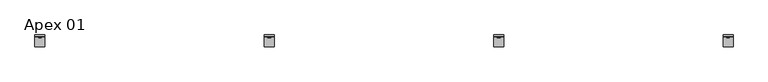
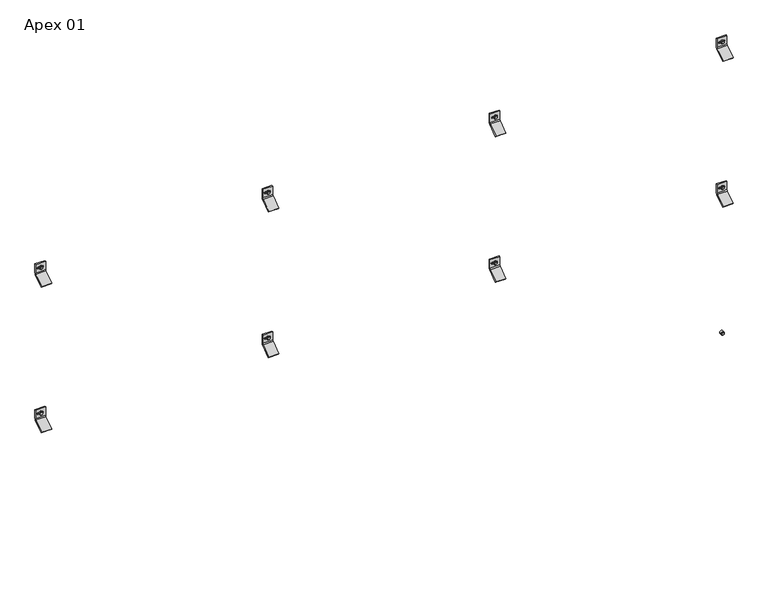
"""IFC4 building model written with IfcOpenShell, lengths in millimetres: plate geometry, Single-Panel-Perforated-Amico_Architectural : Apex 01."""

from ifc_helpers import new_model, si_unit, point, frame, frame_2d, origin, place, context, project, spatial, polyline, circle_curve, trimmed, segment, composite_curve, outline, extrude, source, transform, mapped, element, save
from ifc_brep_helpers import plane_surface, cylinder_surface, revolved_surface, advanced_brep


def apex_01_623eff0d(model_context):
    return source(origin(), model_context, "Body", "SolidModel", [
        extrude(outline(polyline([(1939.6304341, 1299.9070034), (1935.2847216, 1302.4160017), (1935.2847216, 1307.4339983), (1939.6304341, 1309.9429966), (1943.9761466, 1307.4339983), (1943.9761466, 1302.4160017), (1939.6304341, 1299.9070034)])), frame((0.0, -58.7607779, 0.0), z_axis=(0.0, 1.0, 0.0), x_axis=(0.0, 0.0, 1.0)), (0.0, 0.0, 1.0), 11.1357779),
        extrude(outline(composite_curve([segment(trimmed(circle_curve(frame_2d((1939.7237411, 1304.925)), 6.35), [point((1939.7237411, 1311.275))], [point((1939.7237411, 1298.575))], False, "CARTESIAN"), True, "CONTINUOUS"), segment(trimmed(circle_curve(frame_2d((1939.7237411, 1304.925)), 6.35), [point((1939.7237411, 1298.575))], [point((1939.7237411, 1311.275))], False, "CARTESIAN"), True, "CONTINUOUS")], self_intersect=False)), frame((0.0, -57.0817743, 0.0), z_axis=(0.0, 1.0, 0.0), x_axis=(0.0, 0.0, 1.0)), (0.0, 0.0, 1.0), 9.4567743),
        advanced_brep(
        [(1285.875, -47.625, 1922.481122), (1285.875, -51.2819443, 1914.8190896), (1285.875, -89.5163624, 1888.0470618), (1285.875, -92.9330442, 1891.4637436), (1285.875, -54.3526876, 1918.4780001), (1285.875, -52.4002, 1922.4811929), (1285.875, -52.4002, 1956.6738072), (1285.875, -47.625, 1956.6738072), (1323.975, -47.625, 1922.481122), (1323.975, -47.625, 1956.6738072), (1323.975, -52.4002, 1956.6738072), (1323.975, -52.4002, 1922.4811929), (1323.975, -54.3526876, 1918.4780001), (1323.975, -92.9330442, 1891.4637436), (1323.975, -89.5163624, 1888.0470618), (1323.975, -51.2819443, 1914.8190896), (1311.6661889, -52.4002, 1942.628591), (1311.6661889, -52.4002, 1936.278591), (1295.4383287, -52.4002, 1936.278591), (1295.4383287, -52.4002, 1942.628591), (1311.6661889, -47.625, 1936.278591), (1311.6661889, -47.625, 1942.628591), (1295.4383287, -47.625, 1942.628591), (1295.4383287, -47.625, 1936.278591)],
        [
            (0, 1, circle_curve(frame((1285.875, -57.4802202, 1922.481122), z_axis=(-1.0, 0.0, 0.0), x_axis=(0.0, -1.0, 0.0)), 9.8552202)),
            (1, 2),
            (2, 3),
            (3, 4),
            (4, 5, circle_curve(frame((1285.875, -57.4803246, 1922.4811929), z_axis=(1.0, 0.0, 0.0), x_axis=(0.0, -1.0, 0.0)), 5.0801246)),
            (5, 6),
            (6, 7),
            (7, 0),
            (8, 9),
            (9, 10),
            (10, 11),
            (11, 12, circle_curve(frame((1323.975, -57.4803246, 1922.4811929), z_axis=(-1.0, 0.0, 0.0), x_axis=(0.0, -1.0, 0.0)), 5.0801246)),
            (12, 13),
            (13, 14),
            (14, 15),
            (15, 8, circle_curve(frame((1323.975, -57.4802202, 1922.481122), z_axis=(1.0, 0.0, 0.0), x_axis=(0.0, -1.0, 0.0)), 9.8552202)),
            (4, 12),
            (11, 5),
            (10, 6),
            (16, 17, circle_curve(frame((1311.6661889, -52.4002, 1939.453591), z_axis=(0.0, 1.0, 0.0), x_axis=(0.0, 0.0, -1.0)), 3.175)),
            (17, 18),
            (18, 19, circle_curve(frame((1295.4383287, -52.4002, 1939.453591), z_axis=(0.0, 1.0, 0.0), x_axis=(0.0, 0.0, -1.0)), 3.175)),
            (19, 16),
            (9, 7),
            (8, 0),
            (20, 21, circle_curve(frame((1311.6661889, -47.625, 1939.453591), z_axis=(0.0, -1.0, 0.0), x_axis=(0.0, 0.0, -1.0)), 3.175)),
            (21, 22),
            (22, 23, circle_curve(frame((1295.4383287, -47.625, 1939.453591), z_axis=(0.0, -1.0, 0.0), x_axis=(0.0, 0.0, -1.0)), 3.175)),
            (23, 20),
            (15, 1),
            (20, 17),
            (16, 21),
            (19, 22),
            (18, 23),
            (14, 2),
            (13, 3),
        ],
        [
            plane_surface(frame((1285.875, -67.3354404, 1922.481122), z_axis=(-1.0, 0.0, 0.0), x_axis=(0.0, 0.0, 1.0))),
            plane_surface(frame((1323.975, -67.3354404, 1922.481122), z_axis=(1.0, 0.0, 0.0), x_axis=(0.0, 0.0, -1.0))),
            revolved_surface(polyline([(1323.975, -62.5604492, 1922.4811929), (1285.875, -62.5604492, 1922.4811929)]), (1323.975, -57.4803246, 1922.4811929), (1.0, 0.0, 0.0)),
            plane_surface(frame((1285.875, -52.4002, 1922.4811929), z_axis=(0.0, -1.0, 0.0), x_axis=(1.0, 0.0, 0.0))),
            plane_surface(frame((1285.875, -52.4002, 1956.6738072), z_axis=(0.0, 0.0, 1.0), x_axis=(1.0, 0.0, 0.0))),
            plane_surface(frame((1285.875, -47.625, 1956.6738072), z_axis=(0.0, 1.0, 6.99569853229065e-12), x_axis=(1.0, 0.0, 0.0))),
            cylinder_surface(frame((1323.975, -57.4802202, 1922.481122), z_axis=(-1.0, 0.0, 0.0), x_axis=(0.0, -1.0, 0.0)), 9.8552202),
            revolved_surface(polyline([(1311.6661889, -52.4002, 1936.278591), (1311.6661889, -47.625, 1936.278591)]), (1311.6661889, -25.6669948, 1939.453591), (0.0, -1.0, 0.0)),
            plane_surface(frame((1311.6661889, -86.677982, 1942.628591), z_axis=(0.0, 0.0, -1.0), x_axis=(0.0, 1.0, 0.0))),
            revolved_surface(polyline([(1295.4383287, -52.4002, 1936.278591), (1295.4383287, -47.625, 1936.278591)]), (1295.4383287, -25.6669948, 1939.453591), (0.0, -1.0, 0.0)),
            plane_surface(frame((1295.4383287, -86.677982, 1936.278591), z_axis=(-2.7237720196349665e-11, 0.0, 1.0), x_axis=(0.0, 1.0, 0.0))),
            plane_surface(frame((1285.875, -51.2819443, 1914.8190896), z_axis=(0.0, 0.5735764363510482, -0.8191520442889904), x_axis=(1.0, 0.0, 0.0))),
            plane_surface(frame((1285.875, -89.5163624, 1888.0470618), z_axis=(0.0, -0.7071067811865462, -0.7071067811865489), x_axis=(1.0, 0.0, 0.0))),
            plane_surface(frame((1285.875, -92.9330442, 1891.4637436), z_axis=(0.0, -0.5735764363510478, 0.8191520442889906), x_axis=(1.0, 0.0, 0.0))),
        ],
        [
            (0, [[1, 2, 3, 4, 5, 6, 7, 8]]),
            (1, [[9, 10, 11, 12, 13, 14, 15, 16]]),
            (2, [[-5, 17, -12, 18]]),
            (3, [[-6, -18, -11, 19], [20, 21, 22, 23]]),
            (4, [[-7, -19, -10, 24]]),
            (5, [[-8, -24, -9, 25], [26, 27, 28, 29]]),
            (6, [[-1, -25, -16, 30]]),
            (7, [[31, -20, 32, -26]]),
            (8, [[-32, -23, 33, -27]]),
            (9, [[-33, -22, 34, -28]]),
            (10, [[-31, -29, -34, -21]]),
            (11, [[-2, -30, -15, 35]]),
            (12, [[-3, -35, -14, 36]]),
            (13, [[-4, -36, -13, -17]]),
        ],
    ),
        extrude(outline(polyline([(1939.6304341, 429.9570034), (1935.2847216, 432.4660017), (1935.2847216, 437.4839983), (1939.6304341, 439.9929966), (1943.9761466, 437.4839983), (1943.9761466, 432.4660017), (1939.6304341, 429.9570034)])), frame((0.0, -58.7607779, 0.0), z_axis=(0.0, 1.0, 0.0), x_axis=(0.0, 0.0, 1.0)), (0.0, 0.0, 1.0), 11.1357779),
        extrude(outline(composite_curve([segment(trimmed(circle_curve(frame_2d((1939.7237411, 434.975)), 6.35), [point((1939.7237411, 441.325))], [point((1939.7237411, 428.625))], False, "CARTESIAN"), True, "CONTINUOUS"), segment(trimmed(circle_curve(frame_2d((1939.7237411, 434.975)), 6.35), [point((1939.7237411, 428.625))], [point((1939.7237411, 441.325))], False, "CARTESIAN"), True, "CONTINUOUS")], self_intersect=False)), frame((0.0, -57.0817743, 0.0), z_axis=(0.0, 1.0, 0.0), x_axis=(0.0, 0.0, 1.0)), (0.0, 0.0, 1.0), 9.4567743),
        advanced_brep(
        [(415.925, -47.625, 1922.481122), (415.925, -51.2819443, 1914.8190896), (415.925, -89.5163624, 1888.0470618), (415.925, -92.9330442, 1891.4637436), (415.925, -54.3526876, 1918.4780001), (415.925, -52.4002, 1922.4811929), (415.925, -52.4002, 1956.6738072), (415.925, -47.625, 1956.6738072), (454.025, -47.625, 1922.481122), (454.025, -47.625, 1956.6738072), (454.025, -52.4002, 1956.6738072), (454.025, -52.4002, 1922.4811929), (454.025, -54.3526876, 1918.4780001), (454.025, -92.9330442, 1891.4637436), (454.025, -89.5163624, 1888.0470618), (454.025, -51.2819443, 1914.8190896), (441.7161889, -52.4002, 1942.628591), (441.7161889, -52.4002, 1936.278591), (425.4883287, -52.4002, 1936.278591), (425.4883287, -52.4002, 1942.628591), (441.7161889, -47.625, 1936.278591), (441.7161889, -47.625, 1942.628591), (425.4883287, -47.625, 1942.628591), (425.4883287, -47.625, 1936.278591)],
        [
            (0, 1, circle_curve(frame((415.925, -57.4802202, 1922.481122), z_axis=(-1.0, 0.0, 0.0), x_axis=(0.0, -1.0, 0.0)), 9.8552202)),
            (1, 2),
            (2, 3),
            (3, 4),
            (4, 5, circle_curve(frame((415.925, -57.4803246, 1922.4811929), z_axis=(1.0, 0.0, 0.0), x_axis=(0.0, -1.0, 0.0)), 5.0801246)),
            (5, 6),
            (6, 7),
            (7, 0),
            (8, 9),
            (9, 10),
            (10, 11),
            (11, 12, circle_curve(frame((454.025, -57.4803246, 1922.4811929), z_axis=(-1.0, 0.0, 0.0), x_axis=(0.0, -1.0, 0.0)), 5.0801246)),
            (12, 13),
            (13, 14),
            (14, 15),
            (15, 8, circle_curve(frame((454.025, -57.4802202, 1922.481122), z_axis=(1.0, 0.0, 0.0), x_axis=(0.0, -1.0, 0.0)), 9.8552202)),
            (4, 12),
            (11, 5),
            (10, 6),
            (16, 17, circle_curve(frame((441.7161889, -52.4002, 1939.453591), z_axis=(0.0, 1.0, 0.0), x_axis=(0.0, 0.0, -1.0)), 3.175)),
            (17, 18),
            (18, 19, circle_curve(frame((425.4883287, -52.4002, 1939.453591), z_axis=(0.0, 1.0, 0.0), x_axis=(0.0, 0.0, -1.0)), 3.175)),
            (19, 16),
            (9, 7),
            (8, 0),
            (20, 21, circle_curve(frame((441.7161889, -47.625, 1939.453591), z_axis=(0.0, -1.0, 0.0), x_axis=(0.0, 0.0, -1.0)), 3.175)),
            (21, 22),
            (22, 23, circle_curve(frame((425.4883287, -47.625, 1939.453591), z_axis=(0.0, -1.0, 0.0), x_axis=(0.0, 0.0, -1.0)), 3.175)),
            (23, 20),
            (15, 1),
            (20, 17),
            (16, 21),
            (19, 22),
            (18, 23),
            (14, 2),
            (13, 3),
        ],
        [
            plane_surface(frame((415.925, -67.3354404, 1922.481122), z_axis=(-1.0, 0.0, 0.0), x_axis=(0.0, 0.0, 1.0))),
            plane_surface(frame((454.025, -67.3354404, 1922.481122), z_axis=(1.0, 0.0, 0.0), x_axis=(0.0, 0.0, -1.0))),
            revolved_surface(polyline([(454.025, -62.5604492, 1922.4811929), (415.925, -62.5604492, 1922.4811929)]), (454.025, -57.4803246, 1922.4811929), (1.0, 0.0, 0.0)),
            plane_surface(frame((415.925, -52.4002, 1922.4811929), z_axis=(0.0, -1.0, 0.0), x_axis=(1.0, 0.0, 0.0))),
            plane_surface(frame((415.925, -52.4002, 1956.6738072), z_axis=(0.0, 0.0, 1.0), x_axis=(1.0, 0.0, 0.0))),
            plane_surface(frame((415.925, -47.625, 1956.6738072), z_axis=(0.0, 1.0, 6.99569853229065e-12), x_axis=(1.0, 0.0, 0.0))),
            cylinder_surface(frame((454.025, -57.4802202, 1922.481122), z_axis=(-1.0, 0.0, 0.0), x_axis=(0.0, -1.0, 0.0)), 9.8552202),
            revolved_surface(polyline([(441.7161889, -52.4002, 1936.278591), (441.7161889, -47.625, 1936.278591)]), (441.7161889, -25.6669948, 1939.453591), (0.0, -1.0, 0.0)),
            plane_surface(frame((441.7161889, -86.677982, 1942.628591), z_axis=(0.0, 0.0, -1.0), x_axis=(0.0, 1.0, 0.0))),
            revolved_surface(polyline([(425.4883287, -52.4002, 1936.278591), (425.4883287, -47.625, 1936.278591)]), (425.4883287, -25.6669948, 1939.453591), (0.0, -1.0, 0.0)),
            plane_surface(frame((425.4883287, -86.677982, 1936.278591), z_axis=(-2.7237720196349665e-11, 0.0, 1.0), x_axis=(0.0, 1.0, 0.0))),
            plane_surface(frame((415.925, -51.2819443, 1914.8190896), z_axis=(0.0, 0.5735764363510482, -0.8191520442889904), x_axis=(1.0, 0.0, 0.0))),
            plane_surface(frame((415.925, -89.5163624, 1888.0470618), z_axis=(0.0, -0.7071067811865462, -0.7071067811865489), x_axis=(1.0, 0.0, 0.0))),
            plane_surface(frame((415.925, -92.9330442, 1891.4637436), z_axis=(0.0, -0.5735764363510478, 0.8191520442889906), x_axis=(1.0, 0.0, 0.0))),
        ],
        [
            (0, [[1, 2, 3, 4, 5, 6, 7, 8]]),
            (1, [[9, 10, 11, 12, 13, 14, 15, 16]]),
            (2, [[-5, 17, -12, 18]]),
            (3, [[-6, -18, -11, 19], [20, 21, 22, 23]]),
            (4, [[-7, -19, -10, 24]]),
            (5, [[-8, -24, -9, 25], [26, 27, 28, 29]]),
            (6, [[-1, -25, -16, 30]]),
            (7, [[31, -20, 32, -26]]),
            (8, [[-32, -23, 33, -27]]),
            (9, [[-33, -22, 34, -28]]),
            (10, [[-31, -29, -34, -21]]),
            (11, [[-2, -30, -15, 35]]),
            (12, [[-3, -35, -14, 36]]),
            (13, [[-4, -36, -13, -17]]),
        ],
    ),
        extrude(outline(polyline([(1939.6304341, -439.9929966), (1935.2847216, -437.4839983), (1935.2847216, -432.4660017), (1939.6304341, -429.9570034), (1943.9761466, -432.4660017), (1943.9761466, -437.4839983), (1939.6304341, -439.9929966)])), frame((0.0, -58.7607779, 0.0), z_axis=(0.0, 1.0, 0.0), x_axis=(0.0, 0.0, 1.0)), (0.0, 0.0, 1.0), 11.1357779),
        extrude(outline(composite_curve([segment(trimmed(circle_curve(frame_2d((1939.7237411, -434.975)), 6.35), [point((1939.7237411, -428.625))], [point((1939.7237411, -441.325))], False, "CARTESIAN"), True, "CONTINUOUS"), segment(trimmed(circle_curve(frame_2d((1939.7237411, -434.975)), 6.35), [point((1939.7237411, -441.325))], [point((1939.7237411, -428.625))], False, "CARTESIAN"), True, "CONTINUOUS")], self_intersect=False)), frame((0.0, -57.0817743, 0.0), z_axis=(0.0, 1.0, 0.0), x_axis=(0.0, 0.0, 1.0)), (0.0, 0.0, 1.0), 9.4567743),
        advanced_brep(
        [(-454.025, -47.625, 1922.481122), (-454.025, -51.2819443, 1914.8190896), (-454.025, -89.5163624, 1888.0470618), (-454.025, -92.9330442, 1891.4637436), (-454.025, -54.3526876, 1918.4780001), (-454.025, -52.4002, 1922.4811929), (-454.025, -52.4002, 1956.6738072), (-454.025, -47.625, 1956.6738072), (-415.925, -47.625, 1922.481122), (-415.925, -47.625, 1956.6738072), (-415.925, -52.4002, 1956.6738072), (-415.925, -52.4002, 1922.4811929), (-415.925, -54.3526876, 1918.4780001), (-415.925, -92.9330442, 1891.4637436), (-415.925, -89.5163624, 1888.0470618), (-415.925, -51.2819443, 1914.8190896), (-428.2338111, -52.4002, 1942.628591), (-428.2338111, -52.4002, 1936.278591), (-444.4616713, -52.4002, 1936.278591), (-444.4616713, -52.4002, 1942.628591), (-428.2338111, -47.625, 1936.278591), (-428.2338111, -47.625, 1942.628591), (-444.4616713, -47.625, 1942.628591), (-444.4616713, -47.625, 1936.278591)],
        [
            (0, 1, circle_curve(frame((-454.025, -57.4802202, 1922.481122), z_axis=(-1.0, 0.0, 0.0), x_axis=(0.0, -1.0, 0.0)), 9.8552202)),
            (1, 2),
            (2, 3),
            (3, 4),
            (4, 5, circle_curve(frame((-454.025, -57.4803246, 1922.4811929), z_axis=(1.0, 0.0, 0.0), x_axis=(0.0, -1.0, 0.0)), 5.0801246)),
            (5, 6),
            (6, 7),
            (7, 0),
            (8, 9),
            (9, 10),
            (10, 11),
            (11, 12, circle_curve(frame((-415.925, -57.4803246, 1922.4811929), z_axis=(-1.0, 0.0, 0.0), x_axis=(0.0, -1.0, 0.0)), 5.0801246)),
            (12, 13),
            (13, 14),
            (14, 15),
            (15, 8, circle_curve(frame((-415.925, -57.4802202, 1922.481122), z_axis=(1.0, 0.0, 0.0), x_axis=(0.0, -1.0, 0.0)), 9.8552202)),
            (4, 12),
            (11, 5),
            (10, 6),
            (16, 17, circle_curve(frame((-428.2338111, -52.4002, 1939.453591), z_axis=(0.0, 1.0, 0.0), x_axis=(0.0, 0.0, -1.0)), 3.175)),
            (17, 18),
            (18, 19, circle_curve(frame((-444.4616713, -52.4002, 1939.453591), z_axis=(0.0, 1.0, 0.0), x_axis=(0.0, 0.0, -1.0)), 3.175)),
            (19, 16),
            (9, 7),
            (8, 0),
            (20, 21, circle_curve(frame((-428.2338111, -47.625, 1939.453591), z_axis=(0.0, -1.0, 0.0), x_axis=(0.0, 0.0, -1.0)), 3.175)),
            (21, 22),
            (22, 23, circle_curve(frame((-444.4616713, -47.625, 1939.453591), z_axis=(0.0, -1.0, 0.0), x_axis=(0.0, 0.0, -1.0)), 3.175)),
            (23, 20),
            (15, 1),
            (20, 17),
            (16, 21),
            (19, 22),
            (18, 23),
            (14, 2),
            (13, 3),
        ],
        [
            plane_surface(frame((-454.025, -67.3354404, 1922.481122), z_axis=(-1.0, 0.0, 0.0), x_axis=(0.0, 0.0, 1.0))),
            plane_surface(frame((-415.925, -67.3354404, 1922.481122), z_axis=(1.0, 0.0, 0.0), x_axis=(0.0, 0.0, -1.0))),
            revolved_surface(polyline([(-415.925, -62.5604492, 1922.4811929), (-454.025, -62.5604492, 1922.4811929)]), (-415.925, -57.4803246, 1922.4811929), (1.0, 0.0, 0.0)),
            plane_surface(frame((-454.025, -52.4002, 1922.4811929), z_axis=(0.0, -1.0, 0.0), x_axis=(1.0, 0.0, 0.0))),
            plane_surface(frame((-454.025, -52.4002, 1956.6738072), z_axis=(0.0, 0.0, 1.0), x_axis=(1.0, 0.0, 0.0))),
            plane_surface(frame((-454.025, -47.625, 1956.6738072), z_axis=(0.0, 1.0, 6.99569853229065e-12), x_axis=(1.0, 0.0, 0.0))),
            cylinder_surface(frame((-415.925, -57.4802202, 1922.481122), z_axis=(-1.0, 0.0, 0.0), x_axis=(0.0, -1.0, 0.0)), 9.8552202),
            revolved_surface(polyline([(-428.2338111, -52.4002, 1936.278591), (-428.2338111, -47.625, 1936.278591)]), (-428.2338111, -25.6669948, 1939.453591), (0.0, -1.0, 0.0)),
            plane_surface(frame((-428.2338111, -86.677982, 1942.628591), z_axis=(0.0, 0.0, -1.0), x_axis=(0.0, 1.0, 0.0))),
            revolved_surface(polyline([(-444.4616713, -52.4002, 1936.278591), (-444.4616713, -47.625, 1936.278591)]), (-444.4616713, -25.6669948, 1939.453591), (0.0, -1.0, 0.0)),
            plane_surface(frame((-444.4616713, -86.677982, 1936.278591), z_axis=(-2.7237720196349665e-11, 0.0, 1.0), x_axis=(0.0, 1.0, 0.0))),
            plane_surface(frame((-454.025, -51.2819443, 1914.8190896), z_axis=(0.0, 0.5735764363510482, -0.8191520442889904), x_axis=(1.0, 0.0, 0.0))),
            plane_surface(frame((-454.025, -89.5163624, 1888.0470618), z_axis=(0.0, -0.7071067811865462, -0.7071067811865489), x_axis=(1.0, 0.0, 0.0))),
            plane_surface(frame((-454.025, -92.9330442, 1891.4637436), z_axis=(0.0, -0.5735764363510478, 0.8191520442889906), x_axis=(1.0, 0.0, 0.0))),
        ],
        [
            (0, [[1, 2, 3, 4, 5, 6, 7, 8]]),
            (1, [[9, 10, 11, 12, 13, 14, 15, 16]]),
            (2, [[-5, 17, -12, 18]]),
            (3, [[-6, -18, -11, 19], [20, 21, 22, 23]]),
            (4, [[-7, -19, -10, 24]]),
            (5, [[-8, -24, -9, 25], [26, 27, 28, 29]]),
            (6, [[-1, -25, -16, 30]]),
            (7, [[31, -20, 32, -26]]),
            (8, [[-32, -23, 33, -27]]),
            (9, [[-33, -22, 34, -28]]),
            (10, [[-31, -29, -34, -21]]),
            (11, [[-2, -30, -15, 35]]),
            (12, [[-3, -35, -14, 36]]),
            (13, [[-4, -36, -13, -17]]),
        ],
    ),
        extrude(outline(polyline([(1939.6304341, -1309.9429966), (1935.2847216, -1307.4339983), (1935.2847216, -1302.4160017), (1939.6304341, -1299.9070034), (1943.9761466, -1302.4160017), (1943.9761466, -1307.4339983), (1939.6304341, -1309.9429966)])), frame((0.0, -58.7607779, 0.0), z_axis=(0.0, 1.0, 0.0), x_axis=(0.0, 0.0, 1.0)), (0.0, 0.0, 1.0), 11.1357779),
        extrude(outline(composite_curve([segment(trimmed(circle_curve(frame_2d((1939.7237411, -1304.925)), 6.35), [point((1939.7237411, -1298.575))], [point((1939.7237411, -1311.275))], False, "CARTESIAN"), True, "CONTINUOUS"), segment(trimmed(circle_curve(frame_2d((1939.7237411, -1304.925)), 6.35), [point((1939.7237411, -1311.275))], [point((1939.7237411, -1298.575))], False, "CARTESIAN"), True, "CONTINUOUS")], self_intersect=False)), frame((0.0, -57.0817743, 0.0), z_axis=(0.0, 1.0, 0.0), x_axis=(0.0, 0.0, 1.0)), (0.0, 0.0, 1.0), 9.4567743),
        advanced_brep(
        [(-1323.975, -47.625, 1922.481122), (-1323.975, -51.2819443, 1914.8190896), (-1323.975, -89.5163624, 1888.0470618), (-1323.975, -92.9330442, 1891.4637436), (-1323.975, -54.3526876, 1918.4780001), (-1323.975, -52.4002, 1922.4811929), (-1323.975, -52.4002, 1956.6738072), (-1323.975, -47.625, 1956.6738072), (-1285.875, -47.625, 1922.481122), (-1285.875, -47.625, 1956.6738072), (-1285.875, -52.4002, 1956.6738072), (-1285.875, -52.4002, 1922.4811929), (-1285.875, -54.3526876, 1918.4780001), (-1285.875, -92.9330442, 1891.4637436), (-1285.875, -89.5163624, 1888.0470618), (-1285.875, -51.2819443, 1914.8190896), (-1298.1838111, -52.4002, 1942.628591), (-1298.1838111, -52.4002, 1936.278591), (-1314.4116713, -52.4002, 1936.278591), (-1314.4116713, -52.4002, 1942.628591), (-1298.1838111, -47.625, 1936.278591), (-1298.1838111, -47.625, 1942.628591), (-1314.4116713, -47.625, 1942.628591), (-1314.4116713, -47.625, 1936.278591)],
        [
            (0, 1, circle_curve(frame((-1323.975, -57.4802202, 1922.481122), z_axis=(-1.0, 0.0, 0.0), x_axis=(0.0, -1.0, 0.0)), 9.8552202)),
            (1, 2),
            (2, 3),
            (3, 4),
            (4, 5, circle_curve(frame((-1323.975, -57.4803246, 1922.4811929), z_axis=(1.0, 0.0, 0.0), x_axis=(0.0, -1.0, 0.0)), 5.0801246)),
            (5, 6),
            (6, 7),
            (7, 0),
            (8, 9),
            (9, 10),
            (10, 11),
            (11, 12, circle_curve(frame((-1285.875, -57.4803246, 1922.4811929), z_axis=(-1.0, 0.0, 0.0), x_axis=(0.0, -1.0, 0.0)), 5.0801246)),
            (12, 13),
            (13, 14),
            (14, 15),
            (15, 8, circle_curve(frame((-1285.875, -57.4802202, 1922.481122), z_axis=(1.0, 0.0, 0.0), x_axis=(0.0, -1.0, 0.0)), 9.8552202)),
            (4, 12),
            (11, 5),
            (10, 6),
            (16, 17, circle_curve(frame((-1298.1838111, -52.4002, 1939.453591), z_axis=(0.0, 1.0, 0.0), x_axis=(0.0, 0.0, -1.0)), 3.175)),
            (17, 18),
            (18, 19, circle_curve(frame((-1314.4116713, -52.4002, 1939.453591), z_axis=(0.0, 1.0, 0.0), x_axis=(0.0, 0.0, -1.0)), 3.175)),
            (19, 16),
            (9, 7),
            (8, 0),
            (20, 21, circle_curve(frame((-1298.1838111, -47.625, 1939.453591), z_axis=(0.0, -1.0, 0.0), x_axis=(0.0, 0.0, -1.0)), 3.175)),
            (21, 22),
            (22, 23, circle_curve(frame((-1314.4116713, -47.625, 1939.453591), z_axis=(0.0, -1.0, 0.0), x_axis=(0.0, 0.0, -1.0)), 3.175)),
            (23, 20),
            (15, 1),
            (20, 17),
            (16, 21),
            (19, 22),
            (18, 23),
            (14, 2),
            (13, 3),
        ],
        [
            plane_surface(frame((-1323.975, -67.3354404, 1922.481122), z_axis=(-1.0, 0.0, 0.0), x_axis=(0.0, 0.0, 1.0))),
            plane_surface(frame((-1285.875, -67.3354404, 1922.481122), z_axis=(1.0, 0.0, 0.0), x_axis=(0.0, 0.0, -1.0))),
            revolved_surface(polyline([(-1285.875, -62.5604492, 1922.4811929), (-1323.975, -62.5604492, 1922.4811929)]), (-1285.875, -57.4803246, 1922.4811929), (1.0, 0.0, 0.0)),
            plane_surface(frame((-1323.975, -52.4002, 1922.4811929), z_axis=(0.0, -1.0, 0.0), x_axis=(1.0, 0.0, 0.0))),
            plane_surface(frame((-1323.975, -52.4002, 1956.6738072), z_axis=(0.0, 0.0, 1.0), x_axis=(1.0, 0.0, 0.0))),
            plane_surface(frame((-1323.975, -47.625, 1956.6738072), z_axis=(0.0, 1.0, 6.99569853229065e-12), x_axis=(1.0, 0.0, 0.0))),
            cylinder_surface(frame((-1285.875, -57.4802202, 1922.481122), z_axis=(-1.0, 0.0, 0.0), x_axis=(0.0, -1.0, 0.0)), 9.8552202),
            revolved_surface(polyline([(-1298.1838111, -52.4002, 1936.278591), (-1298.1838111, -47.625, 1936.278591)]), (-1298.1838111, -25.6669948, 1939.453591), (0.0, -1.0, 0.0)),
            plane_surface(frame((-1298.1838111, -86.677982, 1942.628591), z_axis=(0.0, 0.0, -1.0), x_axis=(0.0, 1.0, 0.0))),
            revolved_surface(polyline([(-1314.4116713, -52.4002, 1936.278591), (-1314.4116713, -47.625, 1936.278591)]), (-1314.4116713, -25.6669948, 1939.453591), (0.0, -1.0, 0.0)),
            plane_surface(frame((-1314.4116713, -86.677982, 1936.278591), z_axis=(-2.7237720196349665e-11, 0.0, 1.0), x_axis=(0.0, 1.0, 0.0))),
            plane_surface(frame((-1323.975, -51.2819443, 1914.8190896), z_axis=(0.0, 0.5735764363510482, -0.8191520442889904), x_axis=(1.0, 0.0, 0.0))),
            plane_surface(frame((-1323.975, -89.5163624, 1888.0470618), z_axis=(0.0, -0.7071067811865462, -0.7071067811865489), x_axis=(1.0, 0.0, 0.0))),
            plane_surface(frame((-1323.975, -92.9330442, 1891.4637436), z_axis=(0.0, -0.5735764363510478, 0.8191520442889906), x_axis=(1.0, 0.0, 0.0))),
        ],
        [
            (0, [[1, 2, 3, 4, 5, 6, 7, 8]]),
            (1, [[9, 10, 11, 12, 13, 14, 15, 16]]),
            (2, [[-5, 17, -12, 18]]),
            (3, [[-6, -18, -11, 19], [20, 21, 22, 23]]),
            (4, [[-7, -19, -10, 24]]),
            (5, [[-8, -24, -9, 25], [26, 27, 28, 29]]),
            (6, [[-1, -25, -16, 30]]),
            (7, [[31, -20, 32, -26]]),
            (8, [[-32, -23, 33, -27]]),
            (9, [[-33, -22, 34, -28]]),
            (10, [[-31, -29, -34, -21]]),
            (11, [[-2, -30, -15, 35]]),
            (12, [[-3, -35, -14, 36]]),
            (13, [[-4, -36, -13, -17]]),
        ],
    ),
        extrude(outline(polyline([(1349.7134668, 1299.9070034), (1345.3677543, 1302.4160017), (1345.3677543, 1307.4339983), (1349.7134668, 1309.9429966), (1354.0591793, 1307.4339983), (1354.0591793, 1302.4160017), (1349.7134668, 1299.9070034)])), frame((0.0, -58.7607779, 0.0), z_axis=(0.0, 1.0, 0.0), x_axis=(0.0, 0.0, 1.0)), (0.0, 0.0, 1.0), 11.1357779),
        extrude(outline(composite_curve([segment(trimmed(circle_curve(frame_2d((1349.8067738, 1304.925)), 6.35), [point((1349.8067738, 1311.275))], [point((1349.8067738, 1298.575))], False, "CARTESIAN"), True, "CONTINUOUS"), segment(trimmed(circle_curve(frame_2d((1349.8067738, 1304.925)), 6.35), [point((1349.8067738, 1298.575))], [point((1349.8067738, 1311.275))], False, "CARTESIAN"), True, "CONTINUOUS")], self_intersect=False)), frame((0.0, -57.0817743, 0.0), z_axis=(0.0, 1.0, 0.0), x_axis=(0.0, 0.0, 1.0)), (0.0, 0.0, 1.0), 9.4567743),
        advanced_brep(
        [(1285.875, -47.625, 1332.5641547), (1285.875, -51.2819443, 1324.9021223), (1285.875, -89.5163624, 1298.1300945), (1285.875, -92.9330442, 1301.5467763), (1285.875, -54.3526876, 1328.5610329), (1285.875, -52.4002, 1332.5642256), (1285.875, -52.4002, 1366.7568399), (1285.875, -47.625, 1366.7568399), (1323.975, -47.625, 1332.5641547), (1323.975, -47.625, 1366.7568399), (1323.975, -52.4002, 1366.7568399), (1323.975, -52.4002, 1332.5642256), (1323.975, -54.3526876, 1328.5610329), (1323.975, -92.9330442, 1301.5467763), (1323.975, -89.5163624, 1298.1300945), (1323.975, -51.2819443, 1324.9021223), (1311.6661889, -52.4002, 1352.7116237), (1311.6661889, -52.4002, 1346.3616237), (1295.4383287, -52.4002, 1346.3616237), (1295.4383287, -52.4002, 1352.7116237), (1311.6661889, -47.625, 1346.3616237), (1311.6661889, -47.625, 1352.7116237), (1295.4383287, -47.625, 1352.7116237), (1295.4383287, -47.625, 1346.3616237)],
        [
            (0, 1, circle_curve(frame((1285.875, -57.4802202, 1332.5641547), z_axis=(-1.0, 0.0, 0.0), x_axis=(0.0, -1.0, 0.0)), 9.8552202)),
            (1, 2),
            (2, 3),
            (3, 4),
            (4, 5, circle_curve(frame((1285.875, -57.4803246, 1332.5642256), z_axis=(1.0, 0.0, 0.0), x_axis=(0.0, -1.0, 0.0)), 5.0801246)),
            (5, 6),
            (6, 7),
            (7, 0),
            (8, 9),
            (9, 10),
            (10, 11),
            (11, 12, circle_curve(frame((1323.975, -57.4803246, 1332.5642256), z_axis=(-1.0, 0.0, 0.0), x_axis=(0.0, -1.0, 0.0)), 5.0801246)),
            (12, 13),
            (13, 14),
            (14, 15),
            (15, 8, circle_curve(frame((1323.975, -57.4802202, 1332.5641547), z_axis=(1.0, 0.0, 0.0), x_axis=(0.0, -1.0, 0.0)), 9.8552202)),
            (4, 12),
            (11, 5),
            (10, 6),
            (16, 17, circle_curve(frame((1311.6661889, -52.4002, 1349.5366237), z_axis=(0.0, 1.0, 0.0), x_axis=(0.0, 0.0, -1.0)), 3.175)),
            (17, 18),
            (18, 19, circle_curve(frame((1295.4383287, -52.4002, 1349.5366237), z_axis=(0.0, 1.0, 0.0), x_axis=(0.0, 0.0, -1.0)), 3.175)),
            (19, 16),
            (9, 7),
            (8, 0),
            (20, 21, circle_curve(frame((1311.6661889, -47.625, 1349.5366237), z_axis=(0.0, -1.0, 0.0), x_axis=(0.0, 0.0, -1.0)), 3.175)),
            (21, 22),
            (22, 23, circle_curve(frame((1295.4383287, -47.625, 1349.5366237), z_axis=(0.0, -1.0, 0.0), x_axis=(0.0, 0.0, -1.0)), 3.175)),
            (23, 20),
            (15, 1),
            (20, 17),
            (16, 21),
            (19, 22),
            (18, 23),
            (14, 2),
            (13, 3),
        ],
        [
            plane_surface(frame((1285.875, -67.3354404, 1332.5641547), z_axis=(-1.0, 0.0, 0.0), x_axis=(0.0, 0.0, 1.0))),
            plane_surface(frame((1323.975, -67.3354404, 1332.5641547), z_axis=(1.0, 0.0, 0.0), x_axis=(0.0, 0.0, -1.0))),
            revolved_surface(polyline([(1323.975, -62.5604492, 1332.5642256), (1285.875, -62.5604492, 1332.5642256)]), (1323.975, -57.4803246, 1332.5642256), (1.0, 0.0, 0.0)),
            plane_surface(frame((1285.875, -52.4002, 1332.5642256), z_axis=(0.0, -1.0, 0.0), x_axis=(1.0, 0.0, 0.0))),
            plane_surface(frame((1285.875, -52.4002, 1366.7568399), z_axis=(0.0, 0.0, 1.0), x_axis=(1.0, 0.0, 0.0))),
            plane_surface(frame((1285.875, -47.625, 1366.7568399), z_axis=(0.0, 1.0, 6.99569853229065e-12), x_axis=(1.0, 0.0, 0.0))),
            cylinder_surface(frame((1323.975, -57.4802202, 1332.5641547), z_axis=(-1.0, 0.0, 0.0), x_axis=(0.0, -1.0, 0.0)), 9.8552202),
            revolved_surface(polyline([(1311.6661889, -52.4002, 1346.3616237), (1311.6661889, -47.625, 1346.3616237)]), (1311.6661889, -25.6669948, 1349.5366237), (0.0, -1.0, 0.0)),
            plane_surface(frame((1311.6661889, -86.677982, 1352.7116237), z_axis=(0.0, 0.0, -1.0), x_axis=(0.0, 1.0, 0.0))),
            revolved_surface(polyline([(1295.4383287, -52.4002, 1346.3616237), (1295.4383287, -47.625, 1346.3616237)]), (1295.4383287, -25.6669948, 1349.5366237), (0.0, -1.0, 0.0)),
            plane_surface(frame((1295.4383287, -86.677982, 1346.3616237), z_axis=(-2.7237766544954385e-11, 0.0, 1.0), x_axis=(0.0, 1.0, 0.0))),
            plane_surface(frame((1285.875, -51.2819443, 1324.9021223), z_axis=(0.0, 0.5735764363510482, -0.8191520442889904), x_axis=(1.0, 0.0, 0.0))),
            plane_surface(frame((1285.875, -89.5163624, 1298.1300945), z_axis=(0.0, -0.7071067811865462, -0.7071067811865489), x_axis=(1.0, 0.0, 0.0))),
            plane_surface(frame((1285.875, -92.9330442, 1301.5467763), z_axis=(0.0, -0.5735764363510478, 0.8191520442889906), x_axis=(1.0, 0.0, 0.0))),
        ],
        [
            (0, [[1, 2, 3, 4, 5, 6, 7, 8]]),
            (1, [[9, 10, 11, 12, 13, 14, 15, 16]]),
            (2, [[-5, 17, -12, 18]]),
            (3, [[-6, -18, -11, 19], [20, 21, 22, 23]]),
            (4, [[-7, -19, -10, 24]]),
            (5, [[-8, -24, -9, 25], [26, 27, 28, 29]]),
            (6, [[-1, -25, -16, 30]]),
            (7, [[31, -20, 32, -26]]),
            (8, [[-32, -23, 33, -27]]),
            (9, [[-33, -22, 34, -28]]),
            (10, [[-31, -29, -34, -21]]),
            (11, [[-2, -30, -15, 35]]),
            (12, [[-3, -35, -14, 36]]),
            (13, [[-4, -36, -13, -17]]),
        ],
    ),
        extrude(outline(polyline([(1349.7134668, 429.9570034), (1345.3677543, 432.4660017), (1345.3677543, 437.4839983), (1349.7134668, 439.9929966), (1354.0591793, 437.4839983), (1354.0591793, 432.4660017), (1349.7134668, 429.9570034)])), frame((0.0, -58.7607779, 0.0), z_axis=(0.0, 1.0, 0.0), x_axis=(0.0, 0.0, 1.0)), (0.0, 0.0, 1.0), 11.1357779),
        extrude(outline(composite_curve([segment(trimmed(circle_curve(frame_2d((1349.8067738, 434.975)), 6.35), [point((1349.8067738, 441.325))], [point((1349.8067738, 428.625))], False, "CARTESIAN"), True, "CONTINUOUS"), segment(trimmed(circle_curve(frame_2d((1349.8067738, 434.975)), 6.35), [point((1349.8067738, 428.625))], [point((1349.8067738, 441.325))], False, "CARTESIAN"), True, "CONTINUOUS")], self_intersect=False)), frame((0.0, -57.0817743, 0.0), z_axis=(0.0, 1.0, 0.0), x_axis=(0.0, 0.0, 1.0)), (0.0, 0.0, 1.0), 9.4567743),
        advanced_brep(
        [(415.925, -47.625, 1332.5641547), (415.925, -51.2819443, 1324.9021223), (415.925, -89.5163624, 1298.1300945), (415.925, -92.9330442, 1301.5467763), (415.925, -54.3526876, 1328.5610329), (415.925, -52.4002, 1332.5642256), (415.925, -52.4002, 1366.7568399), (415.925, -47.625, 1366.7568399), (454.025, -47.625, 1332.5641547), (454.025, -47.625, 1366.7568399), (454.025, -52.4002, 1366.7568399), (454.025, -52.4002, 1332.5642256), (454.025, -54.3526876, 1328.5610329), (454.025, -92.9330442, 1301.5467763), (454.025, -89.5163624, 1298.1300945), (454.025, -51.2819443, 1324.9021223), (441.7161889, -52.4002, 1352.7116237), (441.7161889, -52.4002, 1346.3616237), (425.4883287, -52.4002, 1346.3616237), (425.4883287, -52.4002, 1352.7116237), (441.7161889, -47.625, 1346.3616237), (441.7161889, -47.625, 1352.7116237), (425.4883287, -47.625, 1352.7116237), (425.4883287, -47.625, 1346.3616237)],
        [
            (0, 1, circle_curve(frame((415.925, -57.4802202, 1332.5641547), z_axis=(-1.0, 0.0, 0.0), x_axis=(0.0, -1.0, 0.0)), 9.8552202)),
            (1, 2),
            (2, 3),
            (3, 4),
            (4, 5, circle_curve(frame((415.925, -57.4803246, 1332.5642256), z_axis=(1.0, 0.0, 0.0), x_axis=(0.0, -1.0, 0.0)), 5.0801246)),
            (5, 6),
            (6, 7),
            (7, 0),
            (8, 9),
            (9, 10),
            (10, 11),
            (11, 12, circle_curve(frame((454.025, -57.4803246, 1332.5642256), z_axis=(-1.0, 0.0, 0.0), x_axis=(0.0, -1.0, 0.0)), 5.0801246)),
            (12, 13),
            (13, 14),
            (14, 15),
            (15, 8, circle_curve(frame((454.025, -57.4802202, 1332.5641547), z_axis=(1.0, 0.0, 0.0), x_axis=(0.0, -1.0, 0.0)), 9.8552202)),
            (4, 12),
            (11, 5),
            (10, 6),
            (16, 17, circle_curve(frame((441.7161889, -52.4002, 1349.5366237), z_axis=(0.0, 1.0, 0.0), x_axis=(0.0, 0.0, -1.0)), 3.175)),
            (17, 18),
            (18, 19, circle_curve(frame((425.4883287, -52.4002, 1349.5366237), z_axis=(0.0, 1.0, 0.0), x_axis=(0.0, 0.0, -1.0)), 3.175)),
            (19, 16),
            (9, 7),
            (8, 0),
            (20, 21, circle_curve(frame((441.7161889, -47.625, 1349.5366237), z_axis=(0.0, -1.0, 0.0), x_axis=(0.0, 0.0, -1.0)), 3.175)),
            (21, 22),
            (22, 23, circle_curve(frame((425.4883287, -47.625, 1349.5366237), z_axis=(0.0, -1.0, 0.0), x_axis=(0.0, 0.0, -1.0)), 3.175)),
            (23, 20),
            (15, 1),
            (20, 17),
            (16, 21),
            (19, 22),
            (18, 23),
            (14, 2),
            (13, 3),
        ],
        [
            plane_surface(frame((415.925, -67.3354404, 1332.5641547), z_axis=(-1.0, 0.0, 0.0), x_axis=(0.0, 0.0, 1.0))),
            plane_surface(frame((454.025, -67.3354404, 1332.5641547), z_axis=(1.0, 0.0, 0.0), x_axis=(0.0, 0.0, -1.0))),
            revolved_surface(polyline([(454.025, -62.5604492, 1332.5642256), (415.925, -62.5604492, 1332.5642256)]), (454.025, -57.4803246, 1332.5642256), (1.0, 0.0, 0.0)),
            plane_surface(frame((415.925, -52.4002, 1332.5642256), z_axis=(0.0, -1.0, 0.0), x_axis=(1.0, 0.0, 0.0))),
            plane_surface(frame((415.925, -52.4002, 1366.7568399), z_axis=(0.0, 0.0, 1.0), x_axis=(1.0, 0.0, 0.0))),
            plane_surface(frame((415.925, -47.625, 1366.7568399), z_axis=(0.0, 1.0, 6.99569853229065e-12), x_axis=(1.0, 0.0, 0.0))),
            cylinder_surface(frame((454.025, -57.4802202, 1332.5641547), z_axis=(-1.0, 0.0, 0.0), x_axis=(0.0, -1.0, 0.0)), 9.8552202),
            revolved_surface(polyline([(441.7161889, -52.4002, 1346.3616237), (441.7161889, -47.625, 1346.3616237)]), (441.7161889, -25.6669948, 1349.5366237), (0.0, -1.0, 0.0)),
            plane_surface(frame((441.7161889, -86.677982, 1352.7116237), z_axis=(0.0, 0.0, -1.0), x_axis=(0.0, 1.0, 0.0))),
            revolved_surface(polyline([(425.4883287, -52.4002, 1346.3616237), (425.4883287, -47.625, 1346.3616237)]), (425.4883287, -25.6669948, 1349.5366237), (0.0, -1.0, 0.0)),
            plane_surface(frame((425.4883287, -86.677982, 1346.3616237), z_axis=(-2.7237766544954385e-11, 0.0, 1.0), x_axis=(0.0, 1.0, 0.0))),
            plane_surface(frame((415.925, -51.2819443, 1324.9021223), z_axis=(0.0, 0.5735764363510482, -0.8191520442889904), x_axis=(1.0, 0.0, 0.0))),
            plane_surface(frame((415.925, -89.5163624, 1298.1300945), z_axis=(0.0, -0.7071067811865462, -0.7071067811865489), x_axis=(1.0, 0.0, 0.0))),
            plane_surface(frame((415.925, -92.9330442, 1301.5467763), z_axis=(0.0, -0.5735764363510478, 0.8191520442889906), x_axis=(1.0, 0.0, 0.0))),
        ],
        [
            (0, [[1, 2, 3, 4, 5, 6, 7, 8]]),
            (1, [[9, 10, 11, 12, 13, 14, 15, 16]]),
            (2, [[-5, 17, -12, 18]]),
            (3, [[-6, -18, -11, 19], [20, 21, 22, 23]]),
            (4, [[-7, -19, -10, 24]]),
            (5, [[-8, -24, -9, 25], [26, 27, 28, 29]]),
            (6, [[-1, -25, -16, 30]]),
            (7, [[31, -20, 32, -26]]),
            (8, [[-32, -23, 33, -27]]),
            (9, [[-33, -22, 34, -28]]),
            (10, [[-31, -29, -34, -21]]),
            (11, [[-2, -30, -15, 35]]),
            (12, [[-3, -35, -14, 36]]),
            (13, [[-4, -36, -13, -17]]),
        ],
    ),
        extrude(outline(polyline([(1349.7134668, -439.9929966), (1345.3677543, -437.4839983), (1345.3677543, -432.4660017), (1349.7134668, -429.9570034), (1354.0591793, -432.4660017), (1354.0591793, -437.4839983), (1349.7134668, -439.9929966)])), frame((0.0, -58.7607779, 0.0), z_axis=(0.0, 1.0, 0.0), x_axis=(0.0, 0.0, 1.0)), (0.0, 0.0, 1.0), 11.1357779),
        extrude(outline(composite_curve([segment(trimmed(circle_curve(frame_2d((1349.8067738, -434.975)), 6.35), [point((1349.8067738, -428.625))], [point((1349.8067738, -441.325))], False, "CARTESIAN"), True, "CONTINUOUS"), segment(trimmed(circle_curve(frame_2d((1349.8067738, -434.975)), 6.35), [point((1349.8067738, -441.325))], [point((1349.8067738, -428.625))], False, "CARTESIAN"), True, "CONTINUOUS")], self_intersect=False)), frame((0.0, -57.0817743, 0.0), z_axis=(0.0, 1.0, 0.0), x_axis=(0.0, 0.0, 1.0)), (0.0, 0.0, 1.0), 9.4567743),
        advanced_brep(
        [(-454.025, -47.625, 1332.5641547), (-454.025, -51.2819443, 1324.9021223), (-454.025, -89.5163624, 1298.1300945), (-454.025, -92.9330442, 1301.5467763), (-454.025, -54.3526876, 1328.5610329), (-454.025, -52.4002, 1332.5642256), (-454.025, -52.4002, 1366.7568399), (-454.025, -47.625, 1366.7568399), (-415.925, -47.625, 1332.5641547), (-415.925, -47.625, 1366.7568399), (-415.925, -52.4002, 1366.7568399), (-415.925, -52.4002, 1332.5642256), (-415.925, -54.3526876, 1328.5610329), (-415.925, -92.9330442, 1301.5467763), (-415.925, -89.5163624, 1298.1300945), (-415.925, -51.2819443, 1324.9021223), (-428.2338111, -52.4002, 1352.7116237), (-428.2338111, -52.4002, 1346.3616237), (-444.4616713, -52.4002, 1346.3616237), (-444.4616713, -52.4002, 1352.7116237), (-428.2338111, -47.625, 1346.3616237), (-428.2338111, -47.625, 1352.7116237), (-444.4616713, -47.625, 1352.7116237), (-444.4616713, -47.625, 1346.3616237)],
        [
            (0, 1, circle_curve(frame((-454.025, -57.4802202, 1332.5641547), z_axis=(-1.0, 0.0, 0.0), x_axis=(0.0, -1.0, 0.0)), 9.8552202)),
            (1, 2),
            (2, 3),
            (3, 4),
            (4, 5, circle_curve(frame((-454.025, -57.4803246, 1332.5642256), z_axis=(1.0, 0.0, 0.0), x_axis=(0.0, -1.0, 0.0)), 5.0801246)),
            (5, 6),
            (6, 7),
            (7, 0),
            (8, 9),
            (9, 10),
            (10, 11),
            (11, 12, circle_curve(frame((-415.925, -57.4803246, 1332.5642256), z_axis=(-1.0, 0.0, 0.0), x_axis=(0.0, -1.0, 0.0)), 5.0801246)),
            (12, 13),
            (13, 14),
            (14, 15),
            (15, 8, circle_curve(frame((-415.925, -57.4802202, 1332.5641547), z_axis=(1.0, 0.0, 0.0), x_axis=(0.0, -1.0, 0.0)), 9.8552202)),
            (4, 12),
            (11, 5),
            (10, 6),
            (16, 17, circle_curve(frame((-428.2338111, -52.4002, 1349.5366237), z_axis=(0.0, 1.0, 0.0), x_axis=(0.0, 0.0, -1.0)), 3.175)),
            (17, 18),
            (18, 19, circle_curve(frame((-444.4616713, -52.4002, 1349.5366237), z_axis=(0.0, 1.0, 0.0), x_axis=(0.0, 0.0, -1.0)), 3.175)),
            (19, 16),
            (9, 7),
            (8, 0),
            (20, 21, circle_curve(frame((-428.2338111, -47.625, 1349.5366237), z_axis=(0.0, -1.0, 0.0), x_axis=(0.0, 0.0, -1.0)), 3.175)),
            (21, 22),
            (22, 23, circle_curve(frame((-444.4616713, -47.625, 1349.5366237), z_axis=(0.0, -1.0, 0.0), x_axis=(0.0, 0.0, -1.0)), 3.175)),
            (23, 20),
            (15, 1),
            (20, 17),
            (16, 21),
            (19, 22),
            (18, 23),
            (14, 2),
            (13, 3),
        ],
        [
            plane_surface(frame((-454.025, -67.3354404, 1332.5641547), z_axis=(-1.0, 0.0, 0.0), x_axis=(0.0, 0.0, 1.0))),
            plane_surface(frame((-415.925, -67.3354404, 1332.5641547), z_axis=(1.0, 0.0, 0.0), x_axis=(0.0, 0.0, -1.0))),
            revolved_surface(polyline([(-415.925, -62.5604492, 1332.5642256), (-454.025, -62.5604492, 1332.5642256)]), (-415.925, -57.4803246, 1332.5642256), (1.0, 0.0, 0.0)),
            plane_surface(frame((-454.025, -52.4002, 1332.5642256), z_axis=(0.0, -1.0, 0.0), x_axis=(1.0, 0.0, 0.0))),
            plane_surface(frame((-454.025, -52.4002, 1366.7568399), z_axis=(0.0, 0.0, 1.0), x_axis=(1.0, 0.0, 0.0))),
            plane_surface(frame((-454.025, -47.625, 1366.7568399), z_axis=(0.0, 1.0, 6.99569853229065e-12), x_axis=(1.0, 0.0, 0.0))),
            cylinder_surface(frame((-415.925, -57.4802202, 1332.5641547), z_axis=(-1.0, 0.0, 0.0), x_axis=(0.0, -1.0, 0.0)), 9.8552202),
            revolved_surface(polyline([(-428.2338111, -52.4002, 1346.3616237), (-428.2338111, -47.625, 1346.3616237)]), (-428.2338111, -25.6669948, 1349.5366237), (0.0, -1.0, 0.0)),
            plane_surface(frame((-428.2338111, -86.677982, 1352.7116237), z_axis=(0.0, 0.0, -1.0), x_axis=(0.0, 1.0, 0.0))),
            revolved_surface(polyline([(-444.4616713, -52.4002, 1346.3616237), (-444.4616713, -47.625, 1346.3616237)]), (-444.4616713, -25.6669948, 1349.5366237), (0.0, -1.0, 0.0)),
            plane_surface(frame((-444.4616713, -86.677982, 1346.3616237), z_axis=(-2.7237766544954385e-11, 0.0, 1.0), x_axis=(0.0, 1.0, 0.0))),
            plane_surface(frame((-454.025, -51.2819443, 1324.9021223), z_axis=(0.0, 0.5735764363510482, -0.8191520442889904), x_axis=(1.0, 0.0, 0.0))),
            plane_surface(frame((-454.025, -89.5163624, 1298.1300945), z_axis=(0.0, -0.7071067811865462, -0.7071067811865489), x_axis=(1.0, 0.0, 0.0))),
            plane_surface(frame((-454.025, -92.9330442, 1301.5467763), z_axis=(0.0, -0.5735764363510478, 0.8191520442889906), x_axis=(1.0, 0.0, 0.0))),
        ],
        [
            (0, [[1, 2, 3, 4, 5, 6, 7, 8]]),
            (1, [[9, 10, 11, 12, 13, 14, 15, 16]]),
            (2, [[-5, 17, -12, 18]]),
            (3, [[-6, -18, -11, 19], [20, 21, 22, 23]]),
            (4, [[-7, -19, -10, 24]]),
            (5, [[-8, -24, -9, 25], [26, 27, 28, 29]]),
            (6, [[-1, -25, -16, 30]]),
            (7, [[31, -20, 32, -26]]),
            (8, [[-32, -23, 33, -27]]),
            (9, [[-33, -22, 34, -28]]),
            (10, [[-31, -29, -34, -21]]),
            (11, [[-2, -30, -15, 35]]),
            (12, [[-3, -35, -14, 36]]),
            (13, [[-4, -36, -13, -17]]),
        ],
    ),
        extrude(outline(polyline([(1349.7134668, -1309.9429966), (1345.3677543, -1307.4339983), (1345.3677543, -1302.4160017), (1349.7134668, -1299.9070034), (1354.0591793, -1302.4160017), (1354.0591793, -1307.4339983), (1349.7134668, -1309.9429966)])), frame((0.0, -58.7607779, 0.0), z_axis=(0.0, 1.0, 0.0), x_axis=(0.0, 0.0, 1.0)), (0.0, 0.0, 1.0), 11.1357779),
        extrude(outline(composite_curve([segment(trimmed(circle_curve(frame_2d((1349.8067738, -1304.925)), 6.35), [point((1349.8067738, -1298.575))], [point((1349.8067738, -1311.275))], False, "CARTESIAN"), True, "CONTINUOUS"), segment(trimmed(circle_curve(frame_2d((1349.8067738, -1304.925)), 6.35), [point((1349.8067738, -1311.275))], [point((1349.8067738, -1298.575))], False, "CARTESIAN"), True, "CONTINUOUS")], self_intersect=False)), frame((0.0, -57.0817743, 0.0), z_axis=(0.0, 1.0, 0.0), x_axis=(0.0, 0.0, 1.0)), (0.0, 0.0, 1.0), 9.4567743),
        advanced_brep(
        [(-1323.975, -47.625, 1332.5641547), (-1323.975, -51.2819443, 1324.9021223), (-1323.975, -89.5163624, 1298.1300945), (-1323.975, -92.9330442, 1301.5467763), (-1323.975, -54.3526876, 1328.5610329), (-1323.975, -52.4002, 1332.5642256), (-1323.975, -52.4002, 1366.7568399), (-1323.975, -47.625, 1366.7568399), (-1285.875, -47.625, 1332.5641547), (-1285.875, -47.625, 1366.7568399), (-1285.875, -52.4002, 1366.7568399), (-1285.875, -52.4002, 1332.5642256), (-1285.875, -54.3526876, 1328.5610329), (-1285.875, -92.9330442, 1301.5467763), (-1285.875, -89.5163624, 1298.1300945), (-1285.875, -51.2819443, 1324.9021223), (-1298.1838111, -52.4002, 1352.7116237), (-1298.1838111, -52.4002, 1346.3616237), (-1314.4116713, -52.4002, 1346.3616237), (-1314.4116713, -52.4002, 1352.7116237), (-1298.1838111, -47.625, 1346.3616237), (-1298.1838111, -47.625, 1352.7116237), (-1314.4116713, -47.625, 1352.7116237), (-1314.4116713, -47.625, 1346.3616237)],
        [
            (0, 1, circle_curve(frame((-1323.975, -57.4802202, 1332.5641547), z_axis=(-1.0, 0.0, 0.0), x_axis=(0.0, -1.0, 0.0)), 9.8552202)),
            (1, 2),
            (2, 3),
            (3, 4),
            (4, 5, circle_curve(frame((-1323.975, -57.4803246, 1332.5642256), z_axis=(1.0, 0.0, 0.0), x_axis=(0.0, -1.0, 0.0)), 5.0801246)),
            (5, 6),
            (6, 7),
            (7, 0),
            (8, 9),
            (9, 10),
            (10, 11),
            (11, 12, circle_curve(frame((-1285.875, -57.4803246, 1332.5642256), z_axis=(-1.0, 0.0, 0.0), x_axis=(0.0, -1.0, 0.0)), 5.0801246)),
            (12, 13),
            (13, 14),
            (14, 15),
            (15, 8, circle_curve(frame((-1285.875, -57.4802202, 1332.5641547), z_axis=(1.0, 0.0, 0.0), x_axis=(0.0, -1.0, 0.0)), 9.8552202)),
            (4, 12),
            (11, 5),
            (10, 6),
            (16, 17, circle_curve(frame((-1298.1838111, -52.4002, 1349.5366237), z_axis=(0.0, 1.0, 0.0), x_axis=(0.0, 0.0, -1.0)), 3.175)),
            (17, 18),
            (18, 19, circle_curve(frame((-1314.4116713, -52.4002, 1349.5366237), z_axis=(0.0, 1.0, 0.0), x_axis=(0.0, 0.0, -1.0)), 3.175)),
            (19, 16),
            (9, 7),
            (8, 0),
            (20, 21, circle_curve(frame((-1298.1838111, -47.625, 1349.5366237), z_axis=(0.0, -1.0, 0.0), x_axis=(0.0, 0.0, -1.0)), 3.175)),
            (21, 22),
            (22, 23, circle_curve(frame((-1314.4116713, -47.625, 1349.5366237), z_axis=(0.0, -1.0, 0.0), x_axis=(0.0, 0.0, -1.0)), 3.175)),
            (23, 20),
            (15, 1),
            (20, 17),
            (16, 21),
            (19, 22),
            (18, 23),
            (14, 2),
            (13, 3),
        ],
        [
            plane_surface(frame((-1323.975, -67.3354404, 1332.5641547), z_axis=(-1.0, 0.0, 0.0), x_axis=(0.0, 0.0, 1.0))),
            plane_surface(frame((-1285.875, -67.3354404, 1332.5641547), z_axis=(1.0, 0.0, 0.0), x_axis=(0.0, 0.0, -1.0))),
            revolved_surface(polyline([(-1285.875, -62.5604492, 1332.5642256), (-1323.975, -62.5604492, 1332.5642256)]), (-1285.875, -57.4803246, 1332.5642256), (1.0, 0.0, 0.0)),
            plane_surface(frame((-1323.975, -52.4002, 1332.5642256), z_axis=(0.0, -1.0, 0.0), x_axis=(1.0, 0.0, 0.0))),
            plane_surface(frame((-1323.975, -52.4002, 1366.7568399), z_axis=(0.0, 0.0, 1.0), x_axis=(1.0, 0.0, 0.0))),
            plane_surface(frame((-1323.975, -47.625, 1366.7568399), z_axis=(0.0, 1.0, 6.99569853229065e-12), x_axis=(1.0, 0.0, 0.0))),
            cylinder_surface(frame((-1285.875, -57.4802202, 1332.5641547), z_axis=(-1.0, 0.0, 0.0), x_axis=(0.0, -1.0, 0.0)), 9.8552202),
            revolved_surface(polyline([(-1298.1838111, -52.4002, 1346.3616237), (-1298.1838111, -47.625, 1346.3616237)]), (-1298.1838111, -25.6669948, 1349.5366237), (0.0, -1.0, 0.0)),
            plane_surface(frame((-1298.1838111, -86.677982, 1352.7116237), z_axis=(0.0, 0.0, -1.0), x_axis=(0.0, 1.0, 0.0))),
            revolved_surface(polyline([(-1314.4116713, -52.4002, 1346.3616237), (-1314.4116713, -47.625, 1346.3616237)]), (-1314.4116713, -25.6669948, 1349.5366237), (0.0, -1.0, 0.0)),
            plane_surface(frame((-1314.4116713, -86.677982, 1346.3616237), z_axis=(-2.7237766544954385e-11, 0.0, 1.0), x_axis=(0.0, 1.0, 0.0))),
            plane_surface(frame((-1323.975, -51.2819443, 1324.9021223), z_axis=(0.0, 0.5735764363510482, -0.8191520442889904), x_axis=(1.0, 0.0, 0.0))),
            plane_surface(frame((-1323.975, -89.5163624, 1298.1300945), z_axis=(0.0, -0.7071067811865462, -0.7071067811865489), x_axis=(1.0, 0.0, 0.0))),
            plane_surface(frame((-1323.975, -92.9330442, 1301.5467763), z_axis=(0.0, -0.5735764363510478, 0.8191520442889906), x_axis=(1.0, 0.0, 0.0))),
        ],
        [
            (0, [[1, 2, 3, 4, 5, 6, 7, 8]]),
            (1, [[9, 10, 11, 12, 13, 14, 15, 16]]),
            (2, [[-5, 17, -12, 18]]),
            (3, [[-6, -18, -11, 19], [20, 21, 22, 23]]),
            (4, [[-7, -19, -10, 24]]),
            (5, [[-8, -24, -9, 25], [26, 27, 28, 29]]),
            (6, [[-1, -25, -16, 30]]),
            (7, [[31, -20, 32, -26]]),
            (8, [[-32, -23, 33, -27]]),
            (9, [[-33, -22, 34, -28]]),
            (10, [[-31, -29, -34, -21]]),
            (11, [[-2, -30, -15, 35]]),
            (12, [[-3, -35, -14, 36]]),
            (13, [[-4, -36, -13, -17]]),
        ],
    ),
        extrude(outline(polyline([(759.7964995, 1299.9070034), (755.450787, 1302.4160017), (755.450787, 1307.4339983), (759.7964995, 1309.9429966), (764.1422121, 1307.4339983), (764.1422121, 1302.4160017), (759.7964995, 1299.9070034)])), frame((0.0, -58.7607779, 0.0), z_axis=(0.0, 1.0, 0.0), x_axis=(0.0, 0.0, 1.0)), (0.0, 0.0, 1.0), 11.1357779),
        extrude(outline(composite_curve([segment(trimmed(circle_curve(frame_2d((759.8898065, 1304.925)), 6.35), [point((759.8898065, 1311.275))], [point((759.8898065, 1298.575))], False, "CARTESIAN"), True, "CONTINUOUS"), segment(trimmed(circle_curve(frame_2d((759.8898065, 1304.925)), 6.35), [point((759.8898065, 1298.575))], [point((759.8898065, 1311.275))], False, "CARTESIAN"), True, "CONTINUOUS")], self_intersect=False)), frame((0.0, -57.0817743, 0.0), z_axis=(0.0, 1.0, 0.0), x_axis=(0.0, 0.0, 1.0)), (0.0, 0.0, 1.0), 9.4567743),
    ])


if __name__ == "__main__":
    model = new_model("IFC4")
    model_context = context("Model", 3, world=origin())
    ifc_project = project(units=[si_unit("LENGTHUNIT", "METRE", prefix="MILLI")], contexts=[model_context])
    site = spatial("IfcSite", under=ifc_project)
    building = spatial("IfcBuilding", under=site)
    placement = place(None, origin())
    apex_01_shape = apex_01_623eff0d(model_context)
    element("IfcPlate", 1, ObjectType="Single-Panel-Perforated-Amico_Architectural : Apex 01", at=placement, inside=building, context=model_context, shape_type="MappedRepresentation", body=[
        mapped(apex_01_shape, transform((0.0, 0.0, 0.0), x_axis=(1.0, 0.0, 0.0), y_axis=(0.0, 1.0, 0.0), z_axis=(0.0, 0.0, 1.0))),
    ])
    save(model, "model.ifc")
